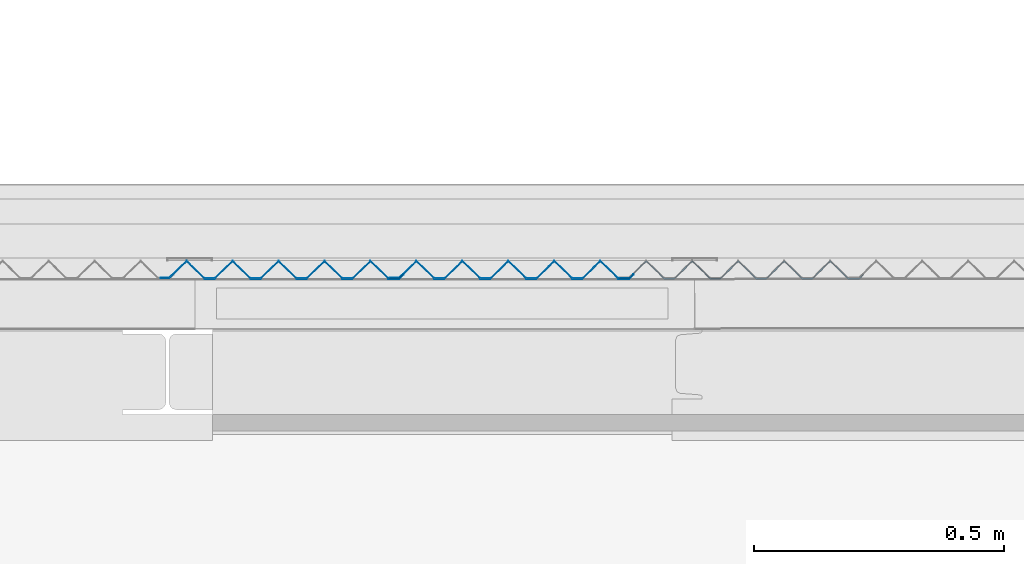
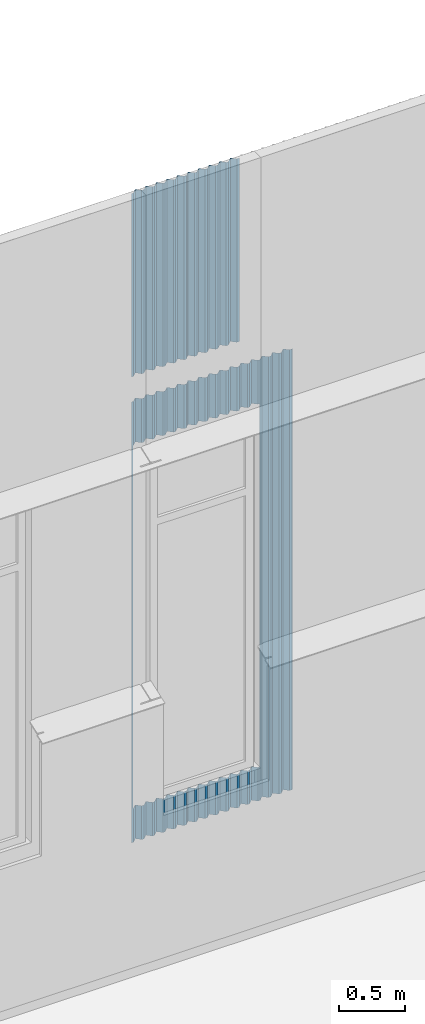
# One storey, part 109 of 338: 5 building element parts, 3 elements without a shape of their own.
"""IFC2X3 building model written with IfcOpenShell, lengths in millimetres."""

from ifc_helpers import new_model, entity, si_unit, converted_unit, derived_unit, money_unit, direction, frame, origin_with_axes, place, context, subcontext, project, spatial, faceted_brep, material, type_object, element, aggregate, save


model = new_model("IFC2X3")

# Units and contexts
model_context = context("Model", 3, precision=0.01, world=origin_with_axes(), true_north=direction((0.0, 1.0)))
plan_context = context("Plan", 3, precision=0.01, world=origin_with_axes(), true_north=direction((0.0, 1.0)))
body_context = subcontext(model_context, "Body", "Model", "MODEL_VIEW")
ifc_project = project(units=[si_unit("LENGTHUNIT", "METRE", prefix="MILLI"), si_unit("AREAUNIT", "SQUARE_METRE"), si_unit("VOLUMEUNIT", "CUBIC_METRE"), converted_unit("PLANEANGLEUNIT", "DEGREE", entity("IfcPlaneAngleMeasure", 0.0174532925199), si_unit("PLANEANGLEUNIT", "RADIAN"), dimensions=[0, 0, 0, 0, 0, 0, 0]), money_unit("EUR"), converted_unit("TIMEUNIT", "Year", entity("IfcTimeMeasure", 31556926.0), si_unit("TIMEUNIT", "SECOND"), dimensions=[0, 0, 1, 0, 0, 0, 0]), si_unit("MASSUNIT", "GRAM", prefix="KILO"), si_unit("THERMODYNAMICTEMPERATUREUNIT", "DEGREE_CELSIUS"), si_unit("LUMINOUSINTENSITYUNIT", "LUMEN"), si_unit("ENERGYUNIT", "JOULE", prefix="MEGA"), derived_unit("THERMALCONDUCTANCEUNIT", [(si_unit("POWERUNIT", "WATT"), 1), (si_unit("LENGTHUNIT", "METRE"), -1), (si_unit("THERMODYNAMICTEMPERATUREUNIT", "KELVIN"), -1)]), derived_unit("SPECIFICHEATCAPACITYUNIT", [(si_unit("ENERGYUNIT", "JOULE"), 1), (si_unit("MASSUNIT", "GRAM", prefix="KILO"), -1), (si_unit("THERMODYNAMICTEMPERATUREUNIT", "KELVIN"), -1)]), derived_unit("MASSDENSITYUNIT", [(si_unit("MASSUNIT", "GRAM", prefix="KILO"), 1), (si_unit("VOLUMEUNIT", "CUBIC_METRE"), -1)])], contexts=[model_context, plan_context])

# Site, building, storey
site_placement = place(None, origin_with_axes())
site = spatial("IfcSite", under=ifc_project, at=site_placement, Name="Fortuinstraat Woensdrecht", CompositionType="ELEMENT")
building_placement = place(site_placement, origin_with_axes())
building = spatial("IfcBuilding", under=site, at=building_placement, Name="IKC Fortuna", CompositionType="ELEMENT")
storey_placement = place(building_placement, origin_with_axes())
storey = spatial("IfcBuildingStorey", under=building, at=storey_placement, Name="00 begane grond", CompositionType="ELEMENT", Elevation=0.0)

# Proxy, building element part
building_element_proxy_type = type_object("IfcBuildingElementProxyType", Name="21 Sandwich custom pyramid 946 x 37", PredefinedType="NOTDEFINED")
proxy_1_placement = place(storey_placement, frame((54189.6588228, 35596.2971073, 1000.0), z_axis=(0.0, 0.0, 1.0), x_axis=(1.0, 0.0, 0.0)))
proxy_1 = element("IfcBuildingElementProxy", 1, at=proxy_1_placement, inside=storey, type_object=building_element_proxy_type, Name="41_Generieke bekleding & afwerking buiten_sandwich custom pyramid")
ifc_material = material(Name="Metaal - Aluminium")
building_element_part_1_placement = place(proxy_1_placement, origin_with_axes())
building_element_part_1 = element("IfcBuildingElementPart", 2, at=building_element_part_1_placement, material=ifc_material, Name="Metaal - Aluminium", context=body_context, shape_type="Brep", body=[
    faceted_brep([(180.487184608, 1.20000548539, 0.0), (180.487184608, 1.20000548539, 310.623682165), (193.768234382, 1.20000548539, 310.623682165), (193.768234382, 1.20000548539, 3655.00076674), (180.487184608, 1.20000548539, 3655.00076674), (180.487184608, 1.20000548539, 4060.0), (199.512813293, 1.20000548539, 4060.0), (199.512813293, 1.20000548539, 0.0), (143.999995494, 36.6736482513, 0.0), (143.999995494, 36.6736482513, 310.623682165), (193.768234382, 0.0, 310.623682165), (107.51282048, 1.20000548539, 310.623682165), (88.487191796, 1.20000548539, 310.623682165), (52.0000026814, 36.6736482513, 310.623682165), (16.7470988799, 2.39999686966, 310.623682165), (0.0, 2.39999686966, 310.623682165), (0.0, 1.20000548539, 310.623682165), (17.2342926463, 1.20000548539, 310.623682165), (52.0000026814, 35.0000001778, 310.623682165), (87.9999980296, 0.0, 310.623682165), (108.000000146, 0.0, 310.623682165), (143.999995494, 35.0000001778, 310.623682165), (180.000004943, 0.0, 310.623682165), (193.768234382, 0.0, 3655.00076674), (143.999995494, 36.6736482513, 3655.00076674), (180.000004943, 0.0, 3655.00076674), (143.999995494, 35.0000001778, 3655.00076674), (108.000000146, 0.0, 3655.00076674), (87.9999980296, 0.0, 3655.00076674), (52.0000026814, 35.0000001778, 3655.00076674), (17.2342926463, 1.20000548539, 3655.00076674), (0.0, 1.20000548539, 3655.00076674), (0.0, 2.39999686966, 3655.00076674), (16.7470988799, 2.39999686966, 3655.00076674), (52.0000026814, 36.6736482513, 3655.00076674), (88.487191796, 1.20000548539, 3655.00076674), (107.51282048, 1.20000548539, 3655.00076674), (143.999995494, 36.6736482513, 4060.0), (52.0000026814, 36.6736482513, 4060.0), (16.7470988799, 2.39999686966, 4060.0), (0.0, 2.39999686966, 4060.0), (0.0, 1.20000548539, 4060.0), (17.2342926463, 1.20000548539, 4060.0), (52.0000026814, 35.0000001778, 4060.0), (87.9999980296, 0.0, 4060.0), (108.000000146, 0.0, 4060.0), (143.999995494, 35.0000001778, 4060.0), (180.000004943, 0.0, 4060.0), (199.999992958, 0.0, 4060.0), (236.000002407, 35.0000001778, 4060.0), (271.999997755, 0.0, 4060.0), (291.999999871, 0.0, 4060.0), (327.99999522, 35.0000001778, 4060.0), (364.000004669, 0.0, 4060.0), (384.000006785, 0.0, 4060.0), (420.000002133, 35.0000001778, 4060.0), (455.999997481, 0.0, 4060.0), (477.721464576, 0.0, 4060.0), (486.309372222, 8.34935896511, 4060.0), (485.472879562, 9.20975302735, 4060.0), (477.23428491, 1.20000548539, 4060.0), (460.000006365, 1.20000548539, 4060.0), (456.487191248, 1.20000548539, 4060.0), (420.000002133, 36.6736482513, 4060.0), (383.512813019, 1.20000548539, 4060.0), (364.487184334, 1.20000548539, 4060.0), (327.99999522, 36.6736482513, 4060.0), (291.512820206, 1.20000548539, 4060.0), (272.487191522, 1.20000548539, 4060.0), (236.000002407, 36.6736482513, 4060.0), (107.51282048, 1.20000548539, 4060.0), (88.487191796, 1.20000548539, 4060.0), (236.000002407, 36.6736482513, 0.0), (17.2342926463, 1.20000548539, 0.0), (0.0, 1.20000548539, 0.0), (0.0, 2.39999686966, 0.0), (16.7470988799, 2.39999686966, 0.0), (52.0000026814, 36.6736482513, 0.0), (88.487191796, 1.20000548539, 0.0), (107.51282048, 1.20000548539, 0.0), (272.487191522, 1.20000548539, 0.0), (291.512820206, 1.20000548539, 0.0), (327.99999522, 36.6736482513, 0.0), (364.487184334, 1.20000548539, 0.0), (383.512813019, 1.20000548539, 0.0), (420.000002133, 36.6736482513, 0.0), (456.487191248, 1.20000548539, 0.0), (460.000006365, 1.20000548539, 0.0), (477.23428491, 1.20000548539, 0.0), (485.472879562, 9.20975302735, 0.0), (486.309372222, 8.34935896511, 0.0), (477.721464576, 0.0, 0.0), (455.999997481, 0.0, 0.0), (420.000002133, 35.0000001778, 0.0), (384.000006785, 0.0, 0.0), (364.000004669, 0.0, 0.0), (327.99999522, 35.0000001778, 0.0), (291.999999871, 0.0, 0.0), (271.999997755, 0.0, 0.0), (236.000002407, 35.0000001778, 0.0), (199.999992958, 0.0, 0.0), (180.000004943, 0.0, 0.0), (143.999995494, 35.0000001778, 0.0), (108.000000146, 0.0, 0.0), (87.9999980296, 0.0, 0.0), (52.0000026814, 35.0000001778, 0.0)], [[[0, 1, 2, 3, 4, 5, 6, 7]], [[8, 9, 1, 0]], [[10, 2, 1, 9, 11, 12, 13, 14, 15, 16, 17, 18, 19, 20, 21, 22]], [[23, 3, 2, 10]], [[24, 4, 3, 23, 25, 26, 27, 28, 29, 30, 31, 32, 33, 34, 35, 36]], [[5, 4, 24, 37]], [[38, 39, 40, 41, 42, 43, 44, 45, 46, 47, 48, 49, 50, 51, 52, 53, 54, 55, 56, 57, 58, 59, 60, 61, 62, 63, 64, 65, 66, 67, 68, 69, 6, 5, 37, 70, 71]], [[6, 69, 72, 7]], [[73, 74, 75, 76, 77, 78, 79, 8, 0, 7, 72, 80, 81, 82, 83, 84, 85, 86, 87, 88, 89, 90, 91, 92, 93, 94, 95, 96, 97, 98, 99, 100, 101, 102, 103, 104, 105]], [[79, 11, 9, 8]], [[78, 12, 11, 79]], [[77, 13, 12, 78]], [[76, 14, 13, 77]], [[75, 15, 14, 76]], [[74, 16, 15, 75]], [[73, 17, 16, 74]], [[105, 18, 17, 73]], [[104, 19, 18, 105]], [[103, 20, 19, 104]], [[102, 21, 20, 103]], [[101, 22, 21, 102]], [[23, 10, 22, 101, 100, 48, 47, 25]], [[46, 26, 25, 47]], [[45, 27, 26, 46]], [[44, 28, 27, 45]], [[43, 29, 28, 44]], [[42, 30, 29, 43]], [[41, 31, 30, 42]], [[40, 32, 31, 41]], [[39, 33, 32, 40]], [[38, 34, 33, 39]], [[71, 35, 34, 38]], [[70, 36, 35, 71]], [[37, 24, 36, 70]], [[49, 48, 100, 99]], [[50, 49, 99, 98]], [[51, 50, 98, 97]], [[52, 51, 97, 96]], [[53, 52, 96, 95]], [[54, 53, 95, 94]], [[55, 54, 94, 93]], [[56, 55, 93, 92]], [[57, 56, 92, 91]], [[58, 57, 91, 90]], [[59, 58, 90, 89]], [[60, 59, 89, 88]], [[61, 60, 88, 87]], [[62, 61, 87, 86]], [[63, 62, 86, 85]], [[64, 63, 85, 84]], [[65, 64, 84, 83]], [[66, 65, 83, 82]], [[67, 66, 82, 81]], [[68, 67, 81, 80]], [[69, 68, 80, 72]]]),
])
aggregate(proxy_1, [building_element_part_1])

# Proxy, building element parts
proxy_2_placement = place(storey_placement, frame((53269.6588228, 35596.2971073, 1000.0), z_axis=(0.0, 0.0, 1.0), x_axis=(1.0, 0.0, 0.0)))
proxy_2 = element("IfcBuildingElementProxy", 3, at=proxy_2_placement, inside=storey, type_object=building_element_proxy_type, Name="41_Generieke bekleding & afwerking buiten_sandwich custom pyramid")
building_element_part_2_placement = place(proxy_2_placement, origin_with_axes())
building_element_part_2 = element("IfcBuildingElementPart", 4, at=building_element_part_2_placement, material=ifc_material, Name="Metaal - Aluminium", context=body_context, shape_type="Brep", body=[
    faceted_brep([(477.721464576, 0.0, 4060.0), (477.721464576, 0.0, 3655.00076674), (486.309372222, 8.34935896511, 3655.00076674), (486.309372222, 8.34935896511, 4060.0), (455.999997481, 0.0, 4060.0), (455.999997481, 0.0, 3655.00076674), (477.23428491, 1.20000548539, 3655.00076674), (485.472879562, 9.20975302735, 3655.00076674), (420.000002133, 35.0000001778, 3655.00076674), (384.000006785, 0.0, 3655.00076674), (364.000004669, 0.0, 3655.00076674), (327.99999522, 35.0000001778, 3655.00076674), (291.999999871, 0.0, 3655.00076674), (271.999997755, 0.0, 3655.00076674), (236.000002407, 35.0000001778, 3655.00076674), (199.999992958, 0.0, 3655.00076674), (180.000004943, 0.0, 3655.00076674), (143.999995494, 35.0000001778, 3655.00076674), (108.000000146, 0.0, 3655.00076674), (87.9999980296, 0.0, 3655.00076674), (52.0000026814, 35.0000001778, 3655.00076674), (17.2342926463, 1.20000548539, 3655.00076674), (13.7682343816, 1.20000548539, 3655.00076674), (13.7682343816, 2.39999686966, 3655.00076674), (16.7470988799, 2.39999686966, 3655.00076674), (52.0000026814, 36.6736482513, 3655.00076674), (88.487191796, 1.20000548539, 3655.00076674), (107.51282048, 1.20000548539, 3655.00076674), (143.999995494, 36.6736482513, 3655.00076674), (180.487184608, 1.20000548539, 3655.00076674), (199.512813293, 1.20000548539, 3655.00076674), (236.000002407, 36.6736482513, 3655.00076674), (272.487191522, 1.20000548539, 3655.00076674), (291.512820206, 1.20000548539, 3655.00076674), (327.99999522, 36.6736482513, 3655.00076674), (364.487184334, 1.20000548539, 3655.00076674), (383.512813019, 1.20000548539, 3655.00076674), (420.000002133, 36.6736482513, 3655.00076674), (456.487191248, 1.20000548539, 3655.00076674), (460.000006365, 1.20000548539, 3655.00076674), (485.472879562, 9.20975302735, 4060.0), (52.0000026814, 36.6736482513, 4060.0), (16.7470988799, 2.39999686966, 4060.0), (0.0, 2.39999686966, 4060.0), (0.0, 1.20000548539, 4060.0), (17.2342926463, 1.20000548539, 4060.0), (52.0000026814, 35.0000001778, 4060.0), (87.9999980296, 0.0, 4060.0), (108.000000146, 0.0, 4060.0), (143.999995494, 35.0000001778, 4060.0), (180.000004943, 0.0, 4060.0), (199.999992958, 0.0, 4060.0), (236.000002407, 35.0000001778, 4060.0), (271.999997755, 0.0, 4060.0), (291.999999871, 0.0, 4060.0), (327.99999522, 35.0000001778, 4060.0), (364.000004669, 0.0, 4060.0), (384.000006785, 0.0, 4060.0), (420.000002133, 35.0000001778, 4060.0), (477.23428491, 1.20000548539, 4060.0), (460.000006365, 1.20000548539, 4060.0), (456.487191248, 1.20000548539, 4060.0), (420.000002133, 36.6736482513, 4060.0), (383.512813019, 1.20000548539, 4060.0), (364.487184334, 1.20000548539, 4060.0), (327.99999522, 36.6736482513, 4060.0), (291.512820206, 1.20000548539, 4060.0), (272.487191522, 1.20000548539, 4060.0), (236.000002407, 36.6736482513, 4060.0), (199.512813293, 1.20000548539, 4060.0), (180.487184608, 1.20000548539, 4060.0), (143.999995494, 36.6736482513, 4060.0), (107.51282048, 1.20000548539, 4060.0), (88.487191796, 1.20000548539, 4060.0), (13.7682343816, 1.20000548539, 310.623682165), (0.0, 1.20000548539, 0.0), (17.2342926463, 1.20000548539, 0.0), (17.2342926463, 1.20000548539, 310.623682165), (13.7682343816, 2.39999686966, 310.623682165), (16.7470988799, 2.39999686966, 310.623682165), (16.7470988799, 2.39999686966, 0.0), (0.0, 2.39999686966, 0.0), (52.0000026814, 36.6736482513, 0.0), (88.487191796, 1.20000548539, 0.0), (107.51282048, 1.20000548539, 0.0), (143.999995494, 36.6736482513, 0.0), (180.487184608, 1.20000548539, 0.0), (199.512813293, 1.20000548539, 0.0), (236.000002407, 36.6736482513, 0.0), (272.487191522, 1.20000548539, 0.0), (291.512820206, 1.20000548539, 0.0), (327.99999522, 36.6736482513, 0.0), (364.487184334, 1.20000548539, 0.0), (383.512813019, 1.20000548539, 0.0), (420.000002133, 36.6736482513, 0.0), (456.487191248, 1.20000548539, 0.0), (460.000006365, 1.20000548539, 0.0), (477.23428491, 1.20000548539, 0.0), (485.472879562, 9.20975302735, 0.0), (486.309372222, 8.34935896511, 0.0), (477.721464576, 0.0, 0.0), (455.999997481, 0.0, 0.0), (420.000002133, 35.0000001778, 0.0), (384.000006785, 0.0, 0.0), (364.000004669, 0.0, 0.0), (327.99999522, 35.0000001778, 0.0), (291.999999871, 0.0, 0.0), (271.999997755, 0.0, 0.0), (236.000002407, 35.0000001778, 0.0), (199.999992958, 0.0, 0.0), (180.000004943, 0.0, 0.0), (143.999995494, 35.0000001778, 0.0), (108.000000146, 0.0, 0.0), (87.9999980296, 0.0, 0.0), (52.0000026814, 35.0000001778, 0.0), (52.0000026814, 35.0000001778, 310.623682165), (455.999997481, 0.0, 310.623682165), (477.721464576, 0.0, 310.623682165), (486.309372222, 8.34935896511, 310.623682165), (485.472879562, 9.20975302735, 310.623682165), (477.23428491, 1.20000548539, 310.623682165), (460.000006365, 1.20000548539, 310.623682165), (456.487191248, 1.20000548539, 310.623682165), (420.000002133, 36.6736482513, 310.623682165), (383.512813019, 1.20000548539, 310.623682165), (364.487184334, 1.20000548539, 310.623682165), (327.99999522, 36.6736482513, 310.623682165), (291.512820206, 1.20000548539, 310.623682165), (272.487191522, 1.20000548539, 310.623682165), (236.000002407, 36.6736482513, 310.623682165), (199.512813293, 1.20000548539, 310.623682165), (180.487184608, 1.20000548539, 310.623682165), (143.999995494, 36.6736482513, 310.623682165), (107.51282048, 1.20000548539, 310.623682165), (88.487191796, 1.20000548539, 310.623682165), (52.0000026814, 36.6736482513, 310.623682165), (87.9999980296, 0.0, 310.623682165), (108.000000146, 0.0, 310.623682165), (143.999995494, 35.0000001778, 310.623682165), (180.000004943, 0.0, 310.623682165), (199.999992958, 0.0, 310.623682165), (236.000002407, 35.0000001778, 310.623682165), (271.999997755, 0.0, 310.623682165), (291.999999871, 0.0, 310.623682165), (327.99999522, 35.0000001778, 310.623682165), (364.000004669, 0.0, 310.623682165), (384.000006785, 0.0, 310.623682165), (420.000002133, 35.0000001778, 310.623682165)], [[[0, 1, 2, 3]], [[4, 5, 1, 0]], [[6, 7, 2, 1, 5, 8, 9, 10, 11, 12, 13, 14, 15, 16, 17, 18, 19, 20, 21, 22, 23, 24, 25, 26, 27, 28, 29, 30, 31, 32, 33, 34, 35, 36, 37, 38, 39]], [[3, 2, 7, 40]], [[41, 42, 43, 44, 45, 46, 47, 48, 49, 50, 51, 52, 53, 54, 55, 56, 57, 58, 4, 0, 3, 40, 59, 60, 61, 62, 63, 64, 65, 66, 67, 68, 69, 70, 71, 72, 73]], [[58, 8, 5, 4]], [[40, 7, 6, 59]], [[57, 9, 8, 58]], [[56, 10, 9, 57]], [[55, 11, 10, 56]], [[54, 12, 11, 55]], [[53, 13, 12, 54]], [[52, 14, 13, 53]], [[51, 15, 14, 52]], [[50, 16, 15, 51]], [[49, 17, 16, 50]], [[48, 18, 17, 49]], [[47, 19, 18, 48]], [[46, 20, 19, 47]], [[45, 21, 20, 46]], [[74, 22, 21, 45, 44, 75, 76, 77]], [[74, 78, 23, 22]], [[23, 78, 79, 80, 81, 43, 42, 24]], [[41, 25, 24, 42]], [[73, 26, 25, 41]], [[72, 27, 26, 73]], [[71, 28, 27, 72]], [[70, 29, 28, 71]], [[69, 30, 29, 70]], [[68, 31, 30, 69]], [[67, 32, 31, 68]], [[66, 33, 32, 67]], [[65, 34, 33, 66]], [[64, 35, 34, 65]], [[63, 36, 35, 64]], [[62, 37, 36, 63]], [[61, 38, 37, 62]], [[60, 39, 38, 61]], [[59, 6, 39, 60]], [[44, 43, 81, 75]], [[76, 75, 81, 80, 82, 83, 84, 85, 86, 87, 88, 89, 90, 91, 92, 93, 94, 95, 96, 97, 98, 99, 100, 101, 102, 103, 104, 105, 106, 107, 108, 109, 110, 111, 112, 113, 114]], [[114, 115, 77, 76]], [[116, 117, 118, 119, 120, 121, 122, 123, 124, 125, 126, 127, 128, 129, 130, 131, 132, 133, 134, 135, 79, 78, 74, 77, 115, 136, 137, 138, 139, 140, 141, 142, 143, 144, 145, 146, 147]], [[80, 79, 135, 82]], [[82, 135, 134, 83]], [[83, 134, 133, 84]], [[84, 133, 132, 85]], [[85, 132, 131, 86]], [[86, 131, 130, 87]], [[87, 130, 129, 88]], [[88, 129, 128, 89]], [[89, 128, 127, 90]], [[90, 127, 126, 91]], [[91, 126, 125, 92]], [[92, 125, 124, 93]], [[93, 124, 123, 94]], [[94, 123, 122, 95]], [[95, 122, 121, 96]], [[96, 121, 120, 97]], [[97, 120, 119, 98]], [[98, 119, 118, 99]], [[99, 118, 117, 100]], [[100, 117, 116, 101]], [[101, 116, 147, 102]], [[102, 147, 146, 103]], [[103, 146, 145, 104]], [[104, 145, 144, 105]], [[105, 144, 143, 106]], [[106, 143, 142, 107]], [[107, 142, 141, 108]], [[108, 141, 140, 109]], [[109, 140, 139, 110]], [[110, 139, 138, 111]], [[111, 138, 137, 112]], [[112, 137, 136, 113]], [[113, 136, 115, 114]]]),
])
building_element_part_3_placement = place(proxy_2_placement, origin_with_axes())
building_element_part_3 = element("IfcBuildingElementPart", 5, at=building_element_part_3_placement, material=ifc_material, Name="Metaal - Aluminium", context=body_context, shape_type="Brep", body=[
    faceted_brep([(945.472884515, 9.20974883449, 0.0), (945.472884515, 9.20974883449, 310.623682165), (946.309378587, 8.34935493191, 310.623682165), (946.309378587, 8.34935493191, 0.0), (937.234285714, 1.2, 0.0), (937.234285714, 1.2, 310.623682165), (916.0, 0.0, 310.623682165), (937.721470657, 0.0, 310.623682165), (916.487184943, 1.2, 310.623682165), (880.0, 36.6736520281, 310.623682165), (843.512815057, 1.2, 310.623682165), (824.487184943, 1.2, 310.623682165), (788.0, 36.6736520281, 310.623682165), (751.512815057, 1.2, 310.623682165), (732.487184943, 1.2, 310.623682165), (696.0, 36.6736520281, 310.623682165), (659.512815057, 1.2, 310.623682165), (640.487184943, 1.2, 310.623682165), (604.0, 36.6736520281, 310.623682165), (567.512815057, 1.2, 310.623682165), (548.487184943, 1.2, 310.623682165), (512.0, 36.6736520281, 310.623682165), (476.747100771, 2.4, 310.623682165), (460.0, 2.4, 310.623682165), (460.0, 1.2, 310.623682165), (477.234285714, 1.2, 310.623682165), (485.472879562, 9.20975302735, 310.623682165), (512.0, 35.0, 310.623682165), (548.0, 0.0, 310.623682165), (568.0, 0.0, 310.623682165), (604.0, 35.0, 310.623682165), (640.0, 0.0, 310.623682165), (660.0, 0.0, 310.623682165), (696.0, 35.0, 310.623682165), (732.0, 0.0, 310.623682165), (752.0, 0.0, 310.623682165), (788.0, 35.0, 310.623682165), (824.0, 0.0, 310.623682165), (844.0, 0.0, 310.623682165), (880.0, 35.0, 310.623682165), (937.721470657, 0.0, 0.0), (485.472879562, 9.20975302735, 0.0), (477.234285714, 1.2, 0.0), (460.0, 1.2, 0.0), (460.0, 2.4, 0.0), (476.747100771, 2.4, 0.0), (512.0, 36.6736520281, 0.0), (548.487184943, 1.2, 0.0), (567.512815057, 1.2, 0.0), (604.0, 36.6736520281, 0.0), (640.487184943, 1.2, 0.0), (659.512815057, 1.2, 0.0), (696.0, 36.6736520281, 0.0), (732.487184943, 1.2, 0.0), (751.512815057, 1.2, 0.0), (788.0, 36.6736520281, 0.0), (824.487184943, 1.2, 0.0), (843.512815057, 1.2, 0.0), (880.0, 36.6736520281, 0.0), (916.487184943, 1.2, 0.0), (916.0, 0.0, 0.0), (880.0, 35.0, 0.0), (844.0, 0.0, 0.0), (824.0, 0.0, 0.0), (788.0, 35.0, 0.0), (752.0, 0.0, 0.0), (732.0, 0.0, 0.0), (696.0, 35.0, 0.0), (660.0, 0.0, 0.0), (640.0, 0.0, 0.0), (604.0, 35.0, 0.0), (568.0, 0.0, 0.0), (548.0, 0.0, 0.0), (512.0, 35.0, 0.0)], [[[0, 1, 2, 3]], [[4, 5, 1, 0]], [[6, 7, 2, 1, 5, 8, 9, 10, 11, 12, 13, 14, 15, 16, 17, 18, 19, 20, 21, 22, 23, 24, 25, 26, 27, 28, 29, 30, 31, 32, 33, 34, 35, 36, 37, 38, 39]], [[3, 2, 7, 40]], [[41, 42, 43, 44, 45, 46, 47, 48, 49, 50, 51, 52, 53, 54, 55, 56, 57, 58, 59, 4, 0, 3, 40, 60, 61, 62, 63, 64, 65, 66, 67, 68, 69, 70, 71, 72, 73]], [[59, 8, 5, 4]], [[40, 7, 6, 60]], [[58, 9, 8, 59]], [[57, 10, 9, 58]], [[56, 11, 10, 57]], [[55, 12, 11, 56]], [[54, 13, 12, 55]], [[53, 14, 13, 54]], [[52, 15, 14, 53]], [[51, 16, 15, 52]], [[50, 17, 16, 51]], [[49, 18, 17, 50]], [[48, 19, 18, 49]], [[47, 20, 19, 48]], [[46, 21, 20, 47]], [[45, 22, 21, 46]], [[44, 23, 22, 45]], [[43, 24, 23, 44]], [[42, 25, 24, 43]], [[41, 26, 25, 42]], [[73, 27, 26, 41]], [[72, 28, 27, 73]], [[71, 29, 28, 72]], [[70, 30, 29, 71]], [[69, 31, 30, 70]], [[68, 32, 31, 69]], [[67, 33, 32, 68]], [[66, 34, 33, 67]], [[65, 35, 34, 66]], [[64, 36, 35, 65]], [[63, 37, 36, 64]], [[62, 38, 37, 63]], [[61, 39, 38, 62]], [[60, 6, 39, 61]]]),
    faceted_brep([(937.721470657, 0.0, 4060.0), (937.721470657, 0.0, 3655.00076674), (946.309378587, 8.34935493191, 3655.00076674), (946.309378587, 8.34935493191, 4060.0), (916.0, 0.0, 4060.0), (916.0, 0.0, 3655.00076674), (937.234285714, 1.2, 3655.00076674), (945.472884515, 9.20974883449, 3655.00076674), (880.0, 35.0, 3655.00076674), (844.0, 0.0, 3655.00076674), (824.0, 0.0, 3655.00076674), (788.0, 35.0, 3655.00076674), (752.0, 0.0, 3655.00076674), (732.0, 0.0, 3655.00076674), (696.0, 35.0, 3655.00076674), (660.0, 0.0, 3655.00076674), (640.0, 0.0, 3655.00076674), (604.0, 35.0, 3655.00076674), (568.0, 0.0, 3655.00076674), (548.0, 0.0, 3655.00076674), (512.0, 35.0, 3655.00076674), (485.472879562, 9.20975302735, 3655.00076674), (477.234285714, 1.2, 3655.00076674), (460.0, 1.2, 3655.00076674), (460.0, 2.4, 3655.00076674), (476.747100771, 2.4, 3655.00076674), (512.0, 36.6736520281, 3655.00076674), (548.487184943, 1.2, 3655.00076674), (567.512815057, 1.2, 3655.00076674), (604.0, 36.6736520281, 3655.00076674), (640.487184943, 1.2, 3655.00076674), (659.512815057, 1.2, 3655.00076674), (696.0, 36.6736520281, 3655.00076674), (732.487184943, 1.2, 3655.00076674), (751.512815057, 1.2, 3655.00076674), (788.0, 36.6736520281, 3655.00076674), (824.487184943, 1.2, 3655.00076674), (843.512815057, 1.2, 3655.00076674), (880.0, 36.6736520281, 3655.00076674), (916.487184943, 1.2, 3655.00076674), (945.472884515, 9.20974883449, 4060.0), (476.747100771, 2.4, 4060.0), (460.0, 2.4, 4060.0), (460.0, 1.2, 4060.0), (477.234285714, 1.2, 4060.0), (485.472879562, 9.20975302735, 4060.0), (512.0, 35.0, 4060.0), (548.0, 0.0, 4060.0), (568.0, 0.0, 4060.0), (604.0, 35.0, 4060.0), (640.0, 0.0, 4060.0), (660.0, 0.0, 4060.0), (696.0, 35.0, 4060.0), (732.0, 0.0, 4060.0), (752.0, 0.0, 4060.0), (788.0, 35.0, 4060.0), (824.0, 0.0, 4060.0), (844.0, 0.0, 4060.0), (880.0, 35.0, 4060.0), (937.234285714, 1.2, 4060.0), (916.487184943, 1.2, 4060.0), (880.0, 36.6736520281, 4060.0), (843.512815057, 1.2, 4060.0), (824.487184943, 1.2, 4060.0), (788.0, 36.6736520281, 4060.0), (751.512815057, 1.2, 4060.0), (732.487184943, 1.2, 4060.0), (696.0, 36.6736520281, 4060.0), (659.512815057, 1.2, 4060.0), (640.487184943, 1.2, 4060.0), (604.0, 36.6736520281, 4060.0), (567.512815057, 1.2, 4060.0), (548.487184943, 1.2, 4060.0), (512.0, 36.6736520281, 4060.0)], [[[0, 1, 2, 3]], [[4, 5, 1, 0]], [[6, 7, 2, 1, 5, 8, 9, 10, 11, 12, 13, 14, 15, 16, 17, 18, 19, 20, 21, 22, 23, 24, 25, 26, 27, 28, 29, 30, 31, 32, 33, 34, 35, 36, 37, 38, 39]], [[3, 2, 7, 40]], [[41, 42, 43, 44, 45, 46, 47, 48, 49, 50, 51, 52, 53, 54, 55, 56, 57, 58, 4, 0, 3, 40, 59, 60, 61, 62, 63, 64, 65, 66, 67, 68, 69, 70, 71, 72, 73]], [[58, 8, 5, 4]], [[40, 7, 6, 59]], [[57, 9, 8, 58]], [[56, 10, 9, 57]], [[55, 11, 10, 56]], [[54, 12, 11, 55]], [[53, 13, 12, 54]], [[52, 14, 13, 53]], [[51, 15, 14, 52]], [[50, 16, 15, 51]], [[49, 17, 16, 50]], [[48, 18, 17, 49]], [[47, 19, 18, 48]], [[46, 20, 19, 47]], [[45, 21, 20, 46]], [[44, 22, 21, 45]], [[43, 23, 22, 44]], [[42, 24, 23, 43]], [[41, 25, 24, 42]], [[73, 26, 25, 41]], [[72, 27, 26, 73]], [[71, 28, 27, 72]], [[70, 29, 28, 71]], [[69, 30, 29, 70]], [[68, 31, 30, 69]], [[67, 32, 31, 68]], [[66, 33, 32, 67]], [[65, 34, 33, 66]], [[64, 35, 34, 65]], [[63, 36, 35, 64]], [[62, 37, 36, 63]], [[61, 38, 37, 62]], [[60, 39, 38, 61]], [[59, 6, 39, 60]]]),
])
aggregate(proxy_2, [building_element_part_2, building_element_part_3])

proxy_3_placement = place(storey_placement, frame((53269.6588228, 35596.2968356, 5289.99999237), z_axis=(0.0, 0.0, 1.0), x_axis=(1.0, 0.0, 0.0)))
proxy_3 = element("IfcBuildingElementProxy", 6, at=proxy_3_placement, inside=storey, type_object=building_element_proxy_type, Name="41_Generieke bekleding & afwerking buiten_sandwich custom pyramid")
building_element_part_4_placement = place(proxy_3_placement, origin_with_axes())
building_element_part_4 = element("IfcBuildingElementPart", 7, at=building_element_part_4_placement, material=ifc_material, Name="Metaal - Aluminium", context=body_context, shape_type="Brep", body=[
    faceted_brep([(0.0, 2.39999686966, 0.0), (0.0, 1.20000548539, 0.0), (0.0, 1.20000548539, 1690.00000566), (0.0, 2.39999686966, 1690.00000566), (16.7470988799, 2.39999686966, 0.0), (52.0000026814, 36.6736482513, 0.0), (88.487191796, 1.20000548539, 0.0), (107.51282048, 1.20000548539, 0.0), (143.999995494, 36.6736482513, 0.0), (180.487184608, 1.20000548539, 0.0), (199.512813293, 1.20000548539, 0.0), (236.000002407, 36.6736482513, 0.0), (272.487191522, 1.20000548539, 0.0), (291.512820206, 1.20000548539, 0.0), (327.99999522, 36.6736482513, 0.0), (364.487184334, 1.20000548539, 0.0), (383.512813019, 1.20000548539, 0.0), (420.000002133, 36.6736482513, 0.0), (456.487191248, 1.20000548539, 0.0), (460.000006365, 1.20000548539, 0.0), (477.23428491, 1.20000548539, 0.0), (485.472879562, 9.20975302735, 0.0), (486.309372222, 8.34935896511, 0.0), (477.721464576, 0.0, 0.0), (455.999997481, 0.0, 0.0), (420.000002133, 35.0000001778, 0.0), (384.000006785, 0.0, 0.0), (364.000004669, 0.0, 0.0), (327.99999522, 35.0000001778, 0.0), (291.999999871, 0.0, 0.0), (271.999997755, 0.0, 0.0), (236.000002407, 35.0000001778, 0.0), (199.999992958, 0.0, 0.0), (180.000004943, 0.0, 0.0), (143.999995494, 35.0000001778, 0.0), (108.000000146, 0.0, 0.0), (87.9999980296, 0.0, 0.0), (52.0000026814, 35.0000001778, 0.0), (17.2342926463, 1.20000548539, 0.0), (17.2342926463, 1.20000548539, 1690.00000566), (52.0000026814, 35.0000001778, 1690.00000566), (87.9999980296, 0.0, 1690.00000566), (108.000000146, 0.0, 1690.00000566), (143.999995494, 35.0000001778, 1690.00000566), (180.000004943, 0.0, 1690.00000566), (199.999992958, 0.0, 1690.00000566), (236.000002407, 35.0000001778, 1690.00000566), (271.999997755, 0.0, 1690.00000566), (291.999999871, 0.0, 1690.00000566), (327.99999522, 35.0000001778, 1690.00000566), (364.000004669, 0.0, 1690.00000566), (384.000006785, 0.0, 1690.00000566), (420.000002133, 35.0000001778, 1690.00000566), (455.999997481, 0.0, 1690.00000566), (477.721464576, 0.0, 1690.00000566), (486.309372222, 8.34935896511, 1690.00000566), (485.472879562, 9.20975302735, 1690.00000566), (477.23428491, 1.20000548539, 1690.00000566), (460.000006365, 1.20000548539, 1690.00000566), (456.487191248, 1.20000548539, 1690.00000566), (420.000002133, 36.6736482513, 1690.00000566), (383.512813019, 1.20000548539, 1690.00000566), (364.487184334, 1.20000548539, 1690.00000566), (327.99999522, 36.6736482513, 1690.00000566), (291.512820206, 1.20000548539, 1690.00000566), (272.487191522, 1.20000548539, 1690.00000566), (236.000002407, 36.6736482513, 1690.00000566), (199.512813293, 1.20000548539, 1690.00000566), (180.487184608, 1.20000548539, 1690.00000566), (143.999995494, 36.6736482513, 1690.00000566), (107.51282048, 1.20000548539, 1690.00000566), (88.487191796, 1.20000548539, 1690.00000566), (52.0000026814, 36.6736482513, 1690.00000566), (16.7470988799, 2.39999686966, 1690.00000566)], [[[0, 1, 2, 3]], [[0, 4, 5, 6, 7, 8, 9, 10, 11, 12, 13, 14, 15, 16, 17, 18, 19, 20, 21, 22, 23, 24, 25, 26, 27, 28, 29, 30, 31, 32, 33, 34, 35, 36, 37, 38, 1]], [[1, 38, 39, 2]], [[3, 2, 39, 40, 41, 42, 43, 44, 45, 46, 47, 48, 49, 50, 51, 52, 53, 54, 55, 56, 57, 58, 59, 60, 61, 62, 63, 64, 65, 66, 67, 68, 69, 70, 71, 72, 73]], [[4, 0, 3, 73]], [[5, 4, 73, 72]], [[6, 5, 72, 71]], [[7, 6, 71, 70]], [[8, 7, 70, 69]], [[9, 8, 69, 68]], [[10, 9, 68, 67]], [[11, 10, 67, 66]], [[12, 11, 66, 65]], [[13, 12, 65, 64]], [[14, 13, 64, 63]], [[15, 14, 63, 62]], [[16, 15, 62, 61]], [[17, 16, 61, 60]], [[18, 17, 60, 59]], [[19, 18, 59, 58]], [[20, 19, 58, 57]], [[21, 20, 57, 56]], [[22, 21, 56, 55]], [[23, 22, 55, 54]], [[24, 23, 54, 53]], [[25, 24, 53, 52]], [[26, 25, 52, 51]], [[27, 26, 51, 50]], [[28, 27, 50, 49]], [[29, 28, 49, 48]], [[30, 29, 48, 47]], [[31, 30, 47, 46]], [[32, 31, 46, 45]], [[33, 32, 45, 44]], [[34, 33, 44, 43]], [[35, 34, 43, 42]], [[36, 35, 42, 41]], [[37, 36, 41, 40]], [[38, 37, 40, 39]]]),
])
building_element_part_5_placement = place(proxy_3_placement, origin_with_axes())
building_element_part_5 = element("IfcBuildingElementPart", 8, at=building_element_part_5_placement, material=ifc_material, Name="Metaal - Aluminium", context=body_context, shape_type="Brep", body=[
    faceted_brep([(460.0, 1.2, 0.0), (477.234285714, 1.2, 0.0), (477.234285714, 1.2, 1690.00000566), (460.0, 1.2, 1690.00000566), (460.0, 2.4, 0.0), (476.747100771, 2.4, 0.0), (512.0, 36.6736520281, 0.0), (548.487184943, 1.2, 0.0), (567.512815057, 1.2, 0.0), (604.0, 36.6736520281, 0.0), (640.487184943, 1.2, 0.0), (659.512815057, 1.2, 0.0), (696.0, 36.6736520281, 0.0), (732.487184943, 1.2, 0.0), (751.512815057, 1.2, 0.0), (788.0, 36.6736520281, 0.0), (824.487184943, 1.2, 0.0), (843.512815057, 1.2, 0.0), (880.0, 36.6736520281, 0.0), (916.487184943, 1.2, 0.0), (937.234285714, 1.2, 0.0), (945.472884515, 9.20974883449, 0.0), (946.309378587, 8.34935493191, 0.0), (937.721470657, 0.0, 0.0), (916.0, 0.0, 0.0), (880.0, 35.0, 0.0), (844.0, 0.0, 0.0), (824.0, 0.0, 0.0), (788.0, 35.0, 0.0), (752.0, 0.0, 0.0), (732.0, 0.0, 0.0), (696.0, 35.0, 0.0), (660.0, 0.0, 0.0), (640.0, 0.0, 0.0), (604.0, 35.0, 0.0), (568.0, 0.0, 0.0), (548.0, 0.0, 0.0), (512.0, 35.0, 0.0), (485.472879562, 9.20975302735, 0.0), (485.472879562, 9.20975302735, 1690.00000566), (512.0, 35.0, 1690.00000566), (548.0, 0.0, 1690.00000566), (568.0, 0.0, 1690.00000566), (604.0, 35.0, 1690.00000566), (640.0, 0.0, 1690.00000566), (660.0, 0.0, 1690.00000566), (696.0, 35.0, 1690.00000566), (732.0, 0.0, 1690.00000566), (752.0, 0.0, 1690.00000566), (788.0, 35.0, 1690.00000566), (824.0, 0.0, 1690.00000566), (844.0, 0.0, 1690.00000566), (880.0, 35.0, 1690.00000566), (916.0, 0.0, 1690.00000566), (937.721470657, 0.0, 1690.00000566), (946.309378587, 8.34935493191, 1690.00000566), (945.472884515, 9.20974883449, 1690.00000566), (937.234285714, 1.2, 1690.00000566), (916.487184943, 1.2, 1690.00000566), (880.0, 36.6736520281, 1690.00000566), (843.512815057, 1.2, 1690.00000566), (824.487184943, 1.2, 1690.00000566), (788.0, 36.6736520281, 1690.00000566), (751.512815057, 1.2, 1690.00000566), (732.487184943, 1.2, 1690.00000566), (696.0, 36.6736520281, 1690.00000566), (659.512815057, 1.2, 1690.00000566), (640.487184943, 1.2, 1690.00000566), (604.0, 36.6736520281, 1690.00000566), (567.512815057, 1.2, 1690.00000566), (548.487184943, 1.2, 1690.00000566), (512.0, 36.6736520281, 1690.00000566), (476.747100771, 2.4, 1690.00000566), (460.0, 2.4, 1690.00000566)], [[[0, 1, 2, 3]], [[0, 4, 5, 6, 7, 8, 9, 10, 11, 12, 13, 14, 15, 16, 17, 18, 19, 20, 21, 22, 23, 24, 25, 26, 27, 28, 29, 30, 31, 32, 33, 34, 35, 36, 37, 38, 1]], [[1, 38, 39, 2]], [[3, 2, 39, 40, 41, 42, 43, 44, 45, 46, 47, 48, 49, 50, 51, 52, 53, 54, 55, 56, 57, 58, 59, 60, 61, 62, 63, 64, 65, 66, 67, 68, 69, 70, 71, 72, 73]], [[4, 0, 3, 73]], [[5, 4, 73, 72]], [[6, 5, 72, 71]], [[7, 6, 71, 70]], [[8, 7, 70, 69]], [[9, 8, 69, 68]], [[10, 9, 68, 67]], [[11, 10, 67, 66]], [[12, 11, 66, 65]], [[13, 12, 65, 64]], [[14, 13, 64, 63]], [[15, 14, 63, 62]], [[16, 15, 62, 61]], [[17, 16, 61, 60]], [[18, 17, 60, 59]], [[19, 18, 59, 58]], [[20, 19, 58, 57]], [[21, 20, 57, 56]], [[22, 21, 56, 55]], [[23, 22, 55, 54]], [[24, 23, 54, 53]], [[25, 24, 53, 52]], [[26, 25, 52, 51]], [[27, 26, 51, 50]], [[28, 27, 50, 49]], [[29, 28, 49, 48]], [[30, 29, 48, 47]], [[31, 30, 47, 46]], [[32, 31, 46, 45]], [[33, 32, 45, 44]], [[34, 33, 44, 43]], [[35, 34, 43, 42]], [[36, 35, 42, 41]], [[37, 36, 41, 40]], [[38, 37, 40, 39]]]),
])
aggregate(proxy_3, [building_element_part_4, building_element_part_5])

save(model, "model.ifc")
